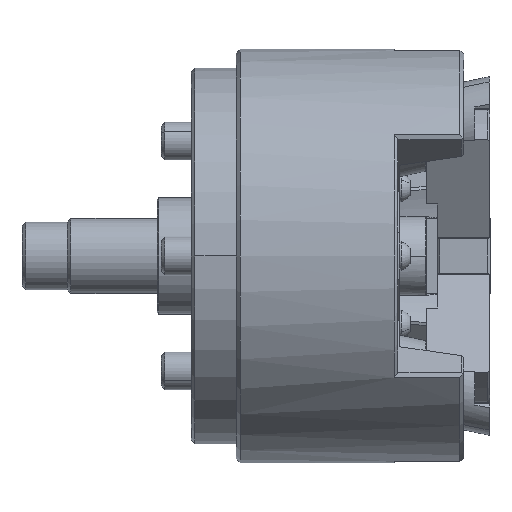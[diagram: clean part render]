
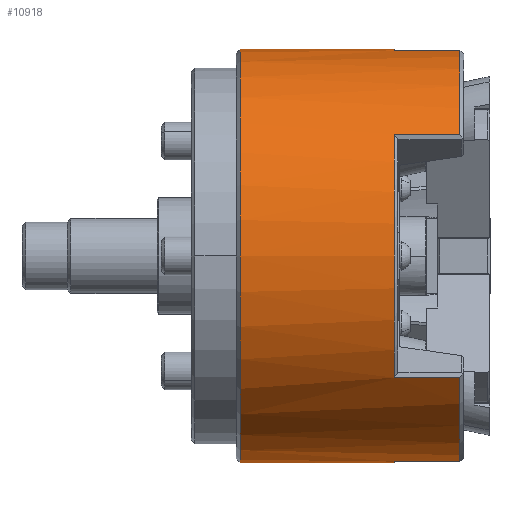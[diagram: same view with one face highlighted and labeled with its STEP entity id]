
A CAD part, front view. The second image highlights one B-rep face of the part: STEP entity #10918.
In plain terms, the highlighted cylindrical face has radius 55 mm (diameter 110 mm), a partial arc.
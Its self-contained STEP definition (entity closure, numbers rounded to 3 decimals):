
#284 = VERTEX_POINT ( 'NONE', #3610 ) ;
#602 = VERTEX_POINT ( 'NONE', #9559 ) ;
#1095 = LINE ( 'NONE', #29840, #28147 ) ;
#1570 = CARTESIAN_POINT ( 'NONE',  ( -41.5, 0., -55. ) ) ;
#1698 = DIRECTION ( 'NONE',  ( 0., 0., -1. ) ) ;
#2184 = VERTEX_POINT ( 'NONE', #4723 ) ;
#2391 = VERTEX_POINT ( 'NONE', #10585 ) ;
#2748 = ORIENTED_EDGE ( 'NONE', *, *, #6936, .F. ) ;
#2803 = AXIS2_PLACEMENT_3D ( 'NONE', #3267, #31130, #1698 ) ;
#2876 = VERTEX_POINT ( 'NONE', #27025 ) ;
#3267 = CARTESIAN_POINT ( 'NONE',  ( 63.843, 0., 0. ) ) ;
#3610 = CARTESIAN_POINT ( 'NONE',  ( -41.5, 0., 55. ) ) ;
#3746 = AXIS2_PLACEMENT_3D ( 'NONE', #4273, #4235, #4022 ) ;
#4022 = DIRECTION ( 'NONE',  ( 0., 0., -1. ) ) ;
#4104 = CIRCLE ( 'NONE', #15084, 55. ) ;
#4193 = VECTOR ( 'NONE', #30876, 1000. ) ;
#4235 = DIRECTION ( 'NONE',  ( 1., 0., 0. ) ) ;
#4273 = CARTESIAN_POINT ( 'NONE',  ( 17., 0., 0. ) ) ;
#4523 = ORIENTED_EDGE ( 'NONE', *, *, #21627, .F. ) ;
#4567 = EDGE_CURVE ( 'NONE', #2391, #25194, #4104, .T. ) ;
#4723 = CARTESIAN_POINT ( 'NONE',  ( 17., -5.78, 54.695 ) ) ;
#5640 = EDGE_CURVE ( 'NONE', #284, #7007, #11381, .T. ) ;
#5816 = ORIENTED_EDGE ( 'NONE', *, *, #16889, .T. ) ;
#6298 = VECTOR ( 'NONE', #10889, 1000. ) ;
#6572 = CARTESIAN_POINT ( 'NONE',  ( 63.843, 0., -55. ) ) ;
#6730 = DIRECTION ( 'NONE',  ( 0., 0., 1. ) ) ;
#6759 = DIRECTION ( 'NONE',  ( -1., 0., 0. ) ) ;
#6768 = CARTESIAN_POINT ( 'NONE',  ( -0.473, 0., 0. ) ) ;
#6936 = EDGE_CURVE ( 'NONE', #2184, #18079, #23299, .T. ) ;
#7007 = VERTEX_POINT ( 'NONE', #1570 ) ;
#7315 = EDGE_CURVE ( 'NONE', #26513, #2391, #1095, .T. ) ;
#7874 = AXIS2_PLACEMENT_3D ( 'NONE', #23651, #23512, #23486 ) ;
#8099 = CARTESIAN_POINT ( 'NONE',  ( 63.843, -44.478, 32.353 ) ) ;
#8700 = CARTESIAN_POINT ( 'NONE',  ( 17., -44.478, 32.353 ) ) ;
#8704 = ORIENTED_EDGE ( 'NONE', *, *, #17997, .T. ) ;
#8757 = LINE ( 'NONE', #31024, #4193 ) ;
#8866 = ORIENTED_EDGE ( 'NONE', *, *, #18038, .F. ) ;
#9159 = DIRECTION ( 'NONE',  ( 1., 0., 0. ) ) ;
#9354 = ORIENTED_EDGE ( 'NONE', *, *, #5640, .T. ) ;
#9559 = CARTESIAN_POINT ( 'NONE',  ( -0.473, 0., 55. ) ) ;
#10048 = DIRECTION ( 'NONE',  ( 0., 0., -1. ) ) ;
#10057 = DIRECTION ( 'NONE',  ( 0., 0., 1. ) ) ;
#10061 = DIRECTION ( 'NONE',  ( -1., 0., 0. ) ) ;
#10081 = DIRECTION ( 'NONE',  ( 1., 0., 0. ) ) ;
#10098 = CARTESIAN_POINT ( 'NONE',  ( -0.473, 0., 0. ) ) ;
#10143 = CARTESIAN_POINT ( 'NONE',  ( 17., 0., 0. ) ) ;
#10305 = EDGE_CURVE ( 'NONE', #12702, #29674, #17136, .T. ) ;
#10585 = CARTESIAN_POINT ( 'NONE',  ( -0.473, -44.478, -32.353 ) ) ;
#10843 = CARTESIAN_POINT ( 'NONE',  ( 63.843, -5.78, -54.695 ) ) ;
#10889 = DIRECTION ( 'NONE',  ( 1., 0., 0. ) ) ;
#10918 = ADVANCED_FACE ( 'NONE', ( #16192 ), #28234, .T. ) ;
#11053 = DIRECTION ( 'NONE',  ( 1., 0., 0. ) ) ;
#11381 = CIRCLE ( 'NONE', #7874, 55. ) ;
#12151 = LINE ( 'NONE', #8099, #18475 ) ;
#12683 = ORIENTED_EDGE ( 'NONE', *, *, #23687, .T. ) ;
#12702 = VERTEX_POINT ( 'NONE', #16376 ) ;
#12815 = AXIS2_PLACEMENT_3D ( 'NONE', #10098, #10061, #10057 ) ;
#13364 = ORIENTED_EDGE ( 'NONE', *, *, #18546, .T. ) ;
#13900 = EDGE_LOOP ( 'NONE', ( #4523, #9354, #12683, #28309, #8704, #8866, #20119, #27911, #18373, #2748, #13364, #5816 ) ) ;
#14688 = DIRECTION ( 'NONE',  ( -1., 0., 0. ) ) ;
#15084 = AXIS2_PLACEMENT_3D ( 'NONE', #26909, #14688, #29838 ) ;
#16192 = FACE_OUTER_BOUND ( 'NONE', #13900, .T. ) ;
#16376 = CARTESIAN_POINT ( 'NONE',  ( -0.473, 0., -55. ) ) ;
#16777 = CARTESIAN_POINT ( 'NONE',  ( 17., -44.478, -32.353 ) ) ;
#16889 = EDGE_CURVE ( 'NONE', #2876, #602, #17308, .T. ) ;
#17136 = CIRCLE ( 'NONE', #12815, 55. ) ;
#17308 = CIRCLE ( 'NONE', #23254, 55. ) ;
#17997 = EDGE_CURVE ( 'NONE', #29674, #27200, #28263, .T. ) ;
#18038 = EDGE_CURVE ( 'NONE', #26513, #27200, #22248, .T. ) ;
#18079 = VERTEX_POINT ( 'NONE', #8700 ) ;
#18373 = ORIENTED_EDGE ( 'NONE', *, *, #31047, .T. ) ;
#18475 = VECTOR ( 'NONE', #27195, 1000. ) ;
#18546 = EDGE_CURVE ( 'NONE', #2184, #2876, #8757, .T. ) ;
#19146 = LINE ( 'NONE', #6572, #26154 ) ;
#20119 = ORIENTED_EDGE ( 'NONE', *, *, #7315, .T. ) ;
#20343 = CARTESIAN_POINT ( 'NONE',  ( 17., -5.78, -54.695 ) ) ;
#21553 = CARTESIAN_POINT ( 'NONE',  ( 63.843, 0., 55. ) ) ;
#21627 = EDGE_CURVE ( 'NONE', #284, #602, #22787, .T. ) ;
#22248 = CIRCLE ( 'NONE', #26244, 55. ) ;
#22787 = LINE ( 'NONE', #21553, #26093 ) ;
#23254 = AXIS2_PLACEMENT_3D ( 'NONE', #6768, #6759, #6730 ) ;
#23299 = CIRCLE ( 'NONE', #3746, 55. ) ;
#23486 = DIRECTION ( 'NONE',  ( 0., 0., -1. ) ) ;
#23512 = DIRECTION ( 'NONE',  ( 1., 0., 0. ) ) ;
#23651 = CARTESIAN_POINT ( 'NONE',  ( -41.5, 0., 0. ) ) ;
#23687 = EDGE_CURVE ( 'NONE', #7007, #12702, #19146, .T. ) ;
#25194 = VERTEX_POINT ( 'NONE', #28132 ) ;
#26093 = VECTOR ( 'NONE', #9159, 1000. ) ;
#26154 = VECTOR ( 'NONE', #11053, 1000. ) ;
#26244 = AXIS2_PLACEMENT_3D ( 'NONE', #10143, #10081, #10048 ) ;
#26513 = VERTEX_POINT ( 'NONE', #16777 ) ;
#26909 = CARTESIAN_POINT ( 'NONE',  ( -0.473, 0., 0. ) ) ;
#27025 = CARTESIAN_POINT ( 'NONE',  ( -0.473, -5.78, 54.695 ) ) ;
#27195 = DIRECTION ( 'NONE',  ( 1., 0., 0. ) ) ;
#27200 = VERTEX_POINT ( 'NONE', #20343 ) ;
#27911 = ORIENTED_EDGE ( 'NONE', *, *, #4567, .T. ) ;
#28132 = CARTESIAN_POINT ( 'NONE',  ( -0.473, -44.478, 32.353 ) ) ;
#28147 = VECTOR ( 'NONE', #29776, 1000. ) ;
#28234 = CYLINDRICAL_SURFACE ( 'NONE', #2803, 55. ) ;
#28263 = LINE ( 'NONE', #10843, #6298 ) ;
#28309 = ORIENTED_EDGE ( 'NONE', *, *, #10305, .T. ) ;
#29255 = CARTESIAN_POINT ( 'NONE',  ( -0.473, -5.78, -54.695 ) ) ;
#29674 = VERTEX_POINT ( 'NONE', #29255 ) ;
#29776 = DIRECTION ( 'NONE',  ( -1., 0., 0. ) ) ;
#29838 = DIRECTION ( 'NONE',  ( 0., 0., 1. ) ) ;
#29840 = CARTESIAN_POINT ( 'NONE',  ( 63.843, -44.478, -32.353 ) ) ;
#30876 = DIRECTION ( 'NONE',  ( -1., 0., 0. ) ) ;
#31024 = CARTESIAN_POINT ( 'NONE',  ( 63.843, -5.78, 54.695 ) ) ;
#31047 = EDGE_CURVE ( 'NONE', #25194, #18079, #12151, .T. ) ;
#31130 = DIRECTION ( 'NONE',  ( 1., 0., 0. ) ) ;
